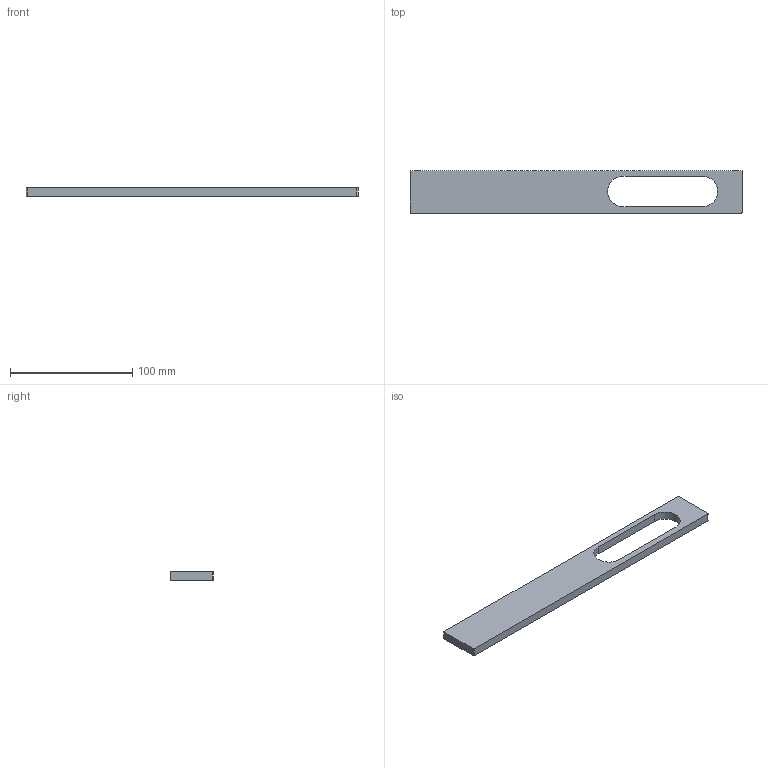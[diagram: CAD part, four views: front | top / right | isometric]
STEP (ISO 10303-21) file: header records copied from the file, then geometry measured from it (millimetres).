
FILE_DESCRIPTION( ( '' ), '1' );
FILE_NAME( 'D:/1.AUTOCAD EXPORT/Group 10/sheet_10_1/DONE/Sachin_1/115005.stp', '2013-10-29T09:44:27', ( '' ), ( '' ), ' ', ' ', ' ' );
FILE_SCHEMA( ( 'CONFIG_CONTROL_DESIGN' ) );
Length unit declared in the file: millimetre
Products named in the file (1): 1
Bounding box: 272 x 35 x 7 mm (x, y, z)
Volume: 51624.8 mm3; surface area: 20760.2 mm2
Topology: 1 solids, 1 shells, 18 faces, 42 edges, 28 vertices
Faces by surface type: plane 10, cylinder 8
Entity records: 570 total; most frequent: DIRECTION 96, CARTESIAN_POINT 89, ORIENTED_EDGE 84, EDGE_CURVE 42, AXIS2_PLACEMENT_3D 35, VERTEX_POINT 28, LINE 26, VECTOR 26
